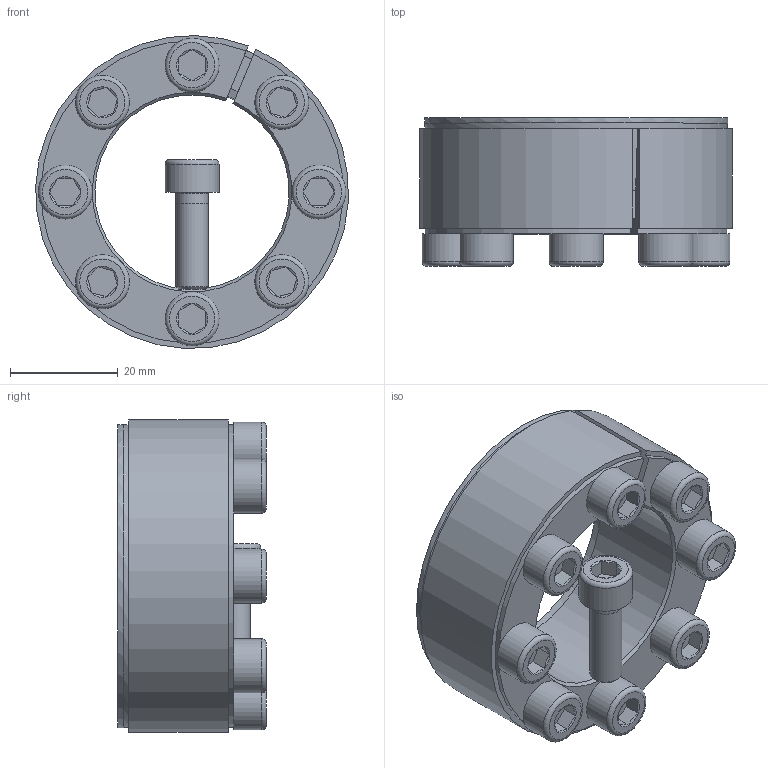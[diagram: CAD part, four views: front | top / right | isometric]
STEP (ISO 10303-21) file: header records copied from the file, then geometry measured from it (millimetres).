
FILE_DESCRIPTION( ( 'Unknown' ), '1' );
FILE_NAME( 'C:/Dokumente und Einstellungen/Sven/Desktop/homepage/cad - homepage/KBS52/KBS 52 - 36 x 58.stp', 'Unknown', ( 'Unknown' ), ( 'Unknown' ), 'XStep 1.0', 'Unknown', ' ' );
FILE_SCHEMA( ( 'automotive_design' ) );
Length unit declared in the file: millimetre
Products named in the file (3): Assem1; KBS 52 - 36 x 58; ISO EN DIN 4762 M6x18
Bounding box: 57.93 x 27.5 x 57.96 mm (x, y, z)
Volume: 66553.4 mm3; surface area: 31684.1 mm2
Topology: 11 solids, 11 shells, 281 faces, 553 edges, 328 vertices
Faces by surface type: plane 134, cone 69, cylinder 60, torus 18
Full cylindrical faces by diameter (mm): 5 x9, 6 x34, 10 x9, 56.175 x2
Entity records: 1741 total; most frequent: CARTESIAN_POINT 283, DIRECTION 263, ORIENTED_EDGE 196, AXIS2_PLACEMENT_3D 110, EDGE_CURVE 98, EDGE_LOOP 92, VERTEX_POINT 70, FACE_OUTER_BOUND 68
